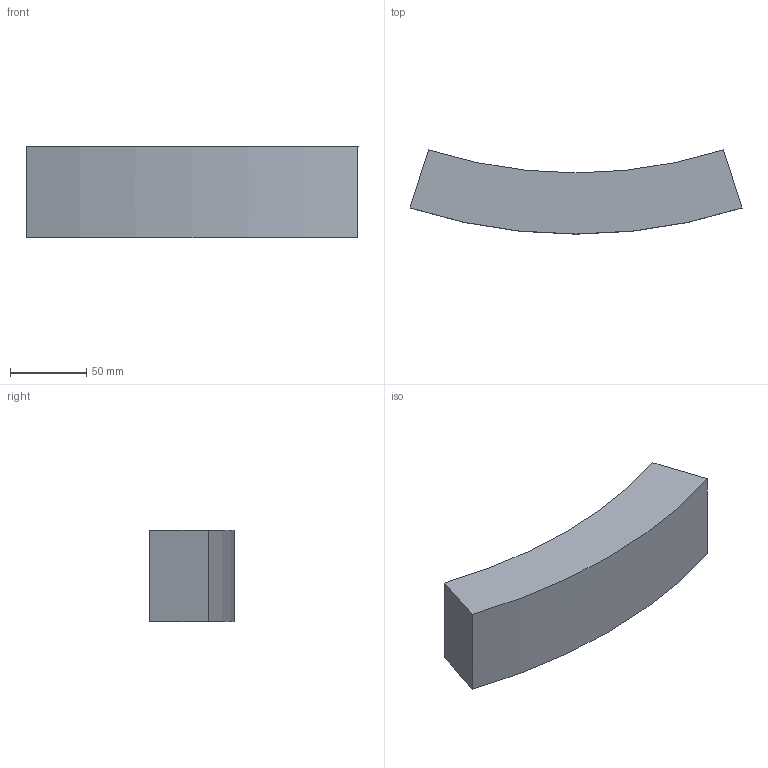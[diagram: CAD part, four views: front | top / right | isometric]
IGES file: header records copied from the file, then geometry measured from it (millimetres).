
Start section:  PTC IGES file: d160-1600_fixbloc_d315_pk-01.igs
Global section: file name: d160-1600_fixbloc_d315_pk-01.igs; native system: Creo Parametric by PTC Inc.; preprocessor: 2019030; author: demmerls; organization: Unknown; date: 20200925.144128; units: millimetre
Bounding box: 217.28 x 55.11 x 60 mm (x, y, z)
Surface area: 46476.1 mm2 (no closed solid volume)
Topology: 0 solids, 0 shells, 6 faces, 24 edges, 24 vertices
Faces by surface type: bspline 6
